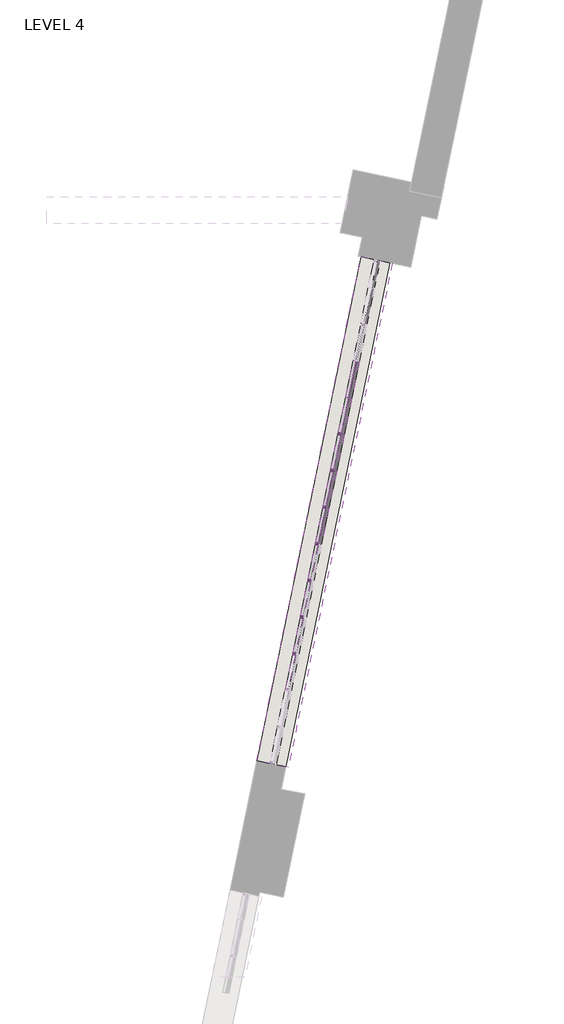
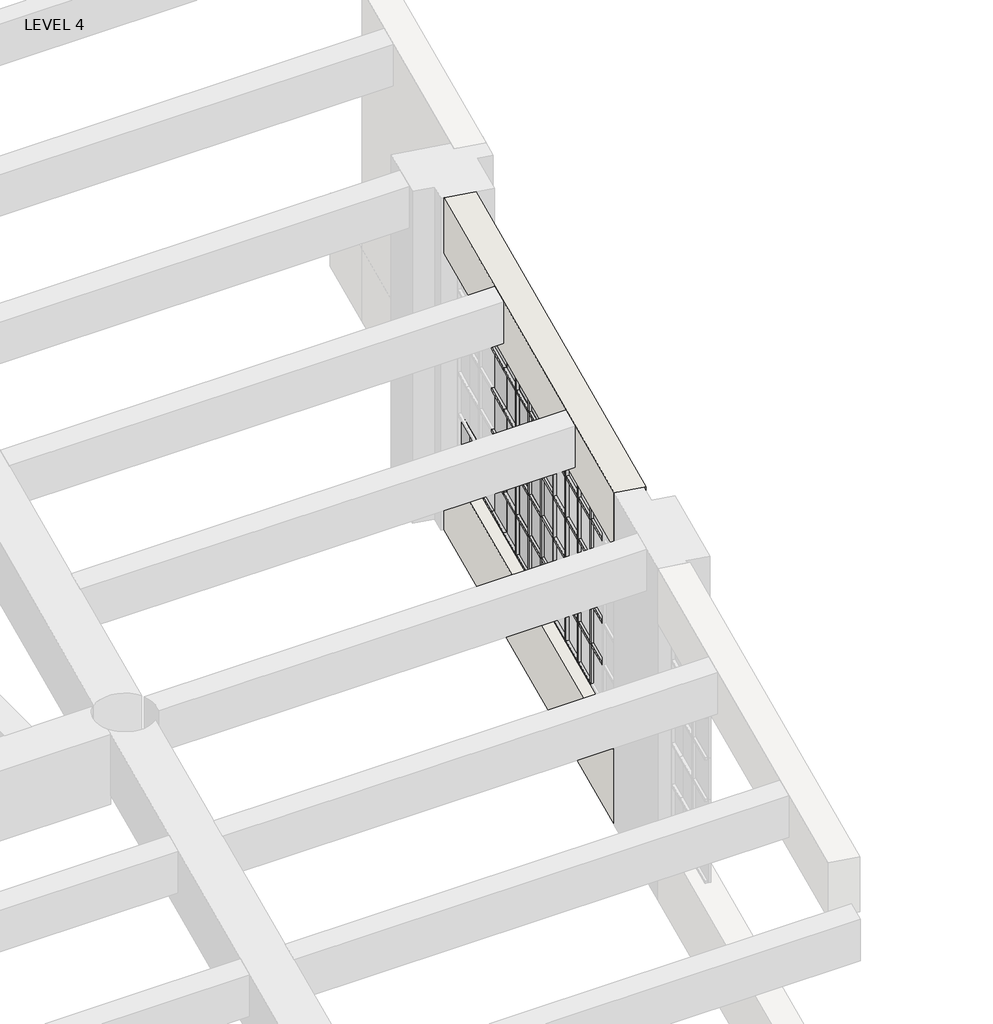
# One storey, part 22 of 26: 89 members, 27 plates, 2 walls.
"""IFC4 building model written with IfcOpenShell, lengths in millimetres."""

from ifc_helpers import new_model, si_unit, frame, origin, origin_with_axes, place, context, project, spatial, polyline, outline, extrude, transform, mapped, element, save
from components import member_d9fec558, member_3d4b608b, member_3c10d71f, member_653bb31e, member_643a3807, member_ec43e15b, member_6c57b699, member_0f6da5c5, system_panel_glazed_ab35d819, system_panel_glazed_f37bcc86, system_panel_glazed_418eb6cd

model = new_model("IFC4")

# Units and contexts
model_context = context("Model", 3, world=origin())
ifc_project = project(units=[si_unit("LENGTHUNIT", "METRE", prefix="MILLI")], contexts=[model_context])

# Site, building, storey
site = spatial("IfcSite", under=ifc_project)
building = spatial("IfcBuilding", under=site)
storey = spatial("IfcBuildingStorey", under=building, Name="LEVEL 4", Elevation=0.0)

# Members
placement = place(None, origin())
member_shape = member_d9fec558(model_context)
element("IfcMember", 1, ObjectType="Circular Mullion : 1 1/4\" Square", at=placement, inside=storey, context=model_context, shape_type="MappedRepresentation", body=[
    mapped(member_shape, transform((22207.396889, 109199.6458322, 2628.9), x_axis=(0.2022212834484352, 0.9793398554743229, 0.0), y_axis=(0.9793398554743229, -0.2022212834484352, 0.0), z_axis=(0.0, 0.0, -1.0))),
])
element("IfcMember", 2, ObjectType="Circular Mullion : 1 1/4\" Square", at=placement, inside=storey, context=model_context, shape_type="MappedRepresentation", body=[
    mapped(member_shape, transform((22135.4870006, 108851.3925796, 2628.9), x_axis=(0.2022212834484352, 0.9793398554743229, 0.0), y_axis=(0.9793398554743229, -0.2022212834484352, 0.0), z_axis=(0.0, 0.0, -1.0))),
])
element("IfcMember", 3, ObjectType="Circular Mullion : 1 1/4\" Square", at=placement, inside=storey, context=model_context, shape_type="MappedRepresentation", body=[
    mapped(member_shape, transform((22063.5771122, 108503.139327, 2628.9), x_axis=(0.2022212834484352, 0.9793398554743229, 0.0), y_axis=(0.9793398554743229, -0.2022212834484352, 0.0), z_axis=(0.0, 0.0, -1.0))),
])
element("IfcMember", 4, ObjectType="Circular Mullion : 1 1/4\" Square", at=placement, inside=storey, context=model_context, shape_type="MappedRepresentation", body=[
    mapped(member_shape, transform((21991.6672238, 108154.8860744, 2628.9), x_axis=(0.2022212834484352, 0.9793398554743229, 0.0), y_axis=(0.9793398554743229, -0.2022212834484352, 0.0), z_axis=(0.0, 0.0, -1.0))),
])
element("IfcMember", 5, ObjectType="Circular Mullion : 1 1/4\" Square", at=placement, inside=storey, context=model_context, shape_type="MappedRepresentation", body=[
    mapped(member_shape, transform((21919.7573354, 107806.6328218, 2628.9), x_axis=(0.2022212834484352, 0.9793398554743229, 0.0), y_axis=(0.9793398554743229, -0.2022212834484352, 0.0), z_axis=(0.0, 0.0, -1.0))),
])
element("IfcMember", 6, ObjectType="Circular Mullion : 1 1/4\" Square", at=placement, inside=storey, context=model_context, shape_type="MappedRepresentation", body=[
    mapped(member_shape, transform((21847.847447, 107458.3795692, 2628.9), x_axis=(0.2022212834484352, 0.9793398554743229, 0.0), y_axis=(0.9793398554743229, -0.2022212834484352, 0.0), z_axis=(0.0, 0.0, -1.0))),
])
element("IfcMember", 7, ObjectType="Circular Mullion : 1 1/4\" Square", at=placement, inside=storey, context=model_context, shape_type="MappedRepresentation", body=[
    mapped(member_shape, transform((21775.9375586, 107110.1263166, 2628.9), x_axis=(0.2022212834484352, 0.9793398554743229, 0.0), y_axis=(0.9793398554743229, -0.2022212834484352, 0.0), z_axis=(0.0, 0.0, -1.0))),
])
member_2_shape = member_3d4b608b(model_context)
element("IfcMember", 8, ObjectType="Circular Mullion : 1 1/4\" Square", at=placement, inside=storey, context=model_context, shape_type="MappedRepresentation", body=[
    mapped(member_2_shape, transform((22207.396889, 109199.6458322, 2171.7), x_axis=(0.2022212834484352, 0.9793398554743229, 0.0), y_axis=(0.9793398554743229, -0.2022212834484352, 0.0), z_axis=(0.0, 0.0, -1.0))),
])
element("IfcMember", 9, ObjectType="Circular Mullion : 1 1/4\" Square", at=placement, inside=storey, context=model_context, shape_type="MappedRepresentation", body=[
    mapped(member_2_shape, transform((22207.396889, 109199.6458322, 1714.5), x_axis=(0.2022212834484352, 0.9793398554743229, 0.0), y_axis=(0.9793398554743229, -0.2022212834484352, 0.0), z_axis=(0.0, 0.0, -1.0))),
])
element("IfcMember", 10, ObjectType="Circular Mullion : 1 1/4\" Square", at=placement, inside=storey, context=model_context, shape_type="MappedRepresentation", body=[
    mapped(member_2_shape, transform((22207.396889, 109199.6458322, 1257.3), x_axis=(0.2022212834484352, 0.9793398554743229, 0.0), y_axis=(0.9793398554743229, -0.2022212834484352, 0.0), z_axis=(0.0, 0.0, -1.0))),
])
element("IfcMember", 11, ObjectType="Circular Mullion : 1 1/4\" Square", at=placement, inside=storey, context=model_context, shape_type="MappedRepresentation", body=[
    mapped(member_2_shape, transform((22135.4870006, 108851.3925796, 2171.7), x_axis=(0.2022212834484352, 0.9793398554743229, 0.0), y_axis=(0.9793398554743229, -0.2022212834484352, 0.0), z_axis=(0.0, 0.0, -1.0))),
])
element("IfcMember", 12, ObjectType="Circular Mullion : 1 1/4\" Square", at=placement, inside=storey, context=model_context, shape_type="MappedRepresentation", body=[
    mapped(member_2_shape, transform((22135.4870006, 108851.3925796, 1714.5), x_axis=(0.2022212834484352, 0.9793398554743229, 0.0), y_axis=(0.9793398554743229, -0.2022212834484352, 0.0), z_axis=(0.0, 0.0, -1.0))),
])
element("IfcMember", 13, ObjectType="Circular Mullion : 1 1/4\" Square", at=placement, inside=storey, context=model_context, shape_type="MappedRepresentation", body=[
    mapped(member_2_shape, transform((22135.4870006, 108851.3925796, 1257.3), x_axis=(0.2022212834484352, 0.9793398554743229, 0.0), y_axis=(0.9793398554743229, -0.2022212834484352, 0.0), z_axis=(0.0, 0.0, -1.0))),
])
element("IfcMember", 14, ObjectType="Circular Mullion : 1 1/4\" Square", at=placement, inside=storey, context=model_context, shape_type="MappedRepresentation", body=[
    mapped(member_2_shape, transform((22063.5771122, 108503.139327, 2171.7), x_axis=(0.2022212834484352, 0.9793398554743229, 0.0), y_axis=(0.9793398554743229, -0.2022212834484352, 0.0), z_axis=(0.0, 0.0, -1.0))),
])
element("IfcMember", 15, ObjectType="Circular Mullion : 1 1/4\" Square", at=placement, inside=storey, context=model_context, shape_type="MappedRepresentation", body=[
    mapped(member_2_shape, transform((22063.5771122, 108503.139327, 1714.5), x_axis=(0.2022212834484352, 0.9793398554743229, 0.0), y_axis=(0.9793398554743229, -0.2022212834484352, 0.0), z_axis=(0.0, 0.0, -1.0))),
])
element("IfcMember", 16, ObjectType="Circular Mullion : 1 1/4\" Square", at=placement, inside=storey, context=model_context, shape_type="MappedRepresentation", body=[
    mapped(member_2_shape, transform((22063.5771122, 108503.139327, 1257.3), x_axis=(0.2022212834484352, 0.9793398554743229, 0.0), y_axis=(0.9793398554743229, -0.2022212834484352, 0.0), z_axis=(0.0, 0.0, -1.0))),
])
element("IfcMember", 17, ObjectType="Circular Mullion : 1 1/4\" Square", at=placement, inside=storey, context=model_context, shape_type="MappedRepresentation", body=[
    mapped(member_2_shape, transform((21991.6672238, 108154.8860744, 2171.7), x_axis=(0.2022212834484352, 0.9793398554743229, 0.0), y_axis=(0.9793398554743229, -0.2022212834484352, 0.0), z_axis=(0.0, 0.0, -1.0))),
])
element("IfcMember", 18, ObjectType="Circular Mullion : 1 1/4\" Square", at=placement, inside=storey, context=model_context, shape_type="MappedRepresentation", body=[
    mapped(member_2_shape, transform((21991.6672238, 108154.8860744, 1714.5), x_axis=(0.2022212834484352, 0.9793398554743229, 0.0), y_axis=(0.9793398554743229, -0.2022212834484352, 0.0), z_axis=(0.0, 0.0, -1.0))),
])
element("IfcMember", 19, ObjectType="Circular Mullion : 1 1/4\" Square", at=placement, inside=storey, context=model_context, shape_type="MappedRepresentation", body=[
    mapped(member_2_shape, transform((21991.6672238, 108154.8860744, 1257.3), x_axis=(0.2022212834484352, 0.9793398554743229, 0.0), y_axis=(0.9793398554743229, -0.2022212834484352, 0.0), z_axis=(0.0, 0.0, -1.0))),
])
element("IfcMember", 20, ObjectType="Circular Mullion : 1 1/4\" Square", at=placement, inside=storey, context=model_context, shape_type="MappedRepresentation", body=[
    mapped(member_2_shape, transform((21919.7573354, 107806.6328218, 2171.7), x_axis=(0.2022212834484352, 0.9793398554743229, 0.0), y_axis=(0.9793398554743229, -0.2022212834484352, 0.0), z_axis=(0.0, 0.0, -1.0))),
])
element("IfcMember", 21, ObjectType="Circular Mullion : 1 1/4\" Square", at=placement, inside=storey, context=model_context, shape_type="MappedRepresentation", body=[
    mapped(member_2_shape, transform((21919.7573354, 107806.6328218, 1714.5), x_axis=(0.2022212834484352, 0.9793398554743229, 0.0), y_axis=(0.9793398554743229, -0.2022212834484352, 0.0), z_axis=(0.0, 0.0, -1.0))),
])
element("IfcMember", 22, ObjectType="Circular Mullion : 1 1/4\" Square", at=placement, inside=storey, context=model_context, shape_type="MappedRepresentation", body=[
    mapped(member_2_shape, transform((21919.7573354, 107806.6328218, 1257.3), x_axis=(0.2022212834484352, 0.9793398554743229, 0.0), y_axis=(0.9793398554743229, -0.2022212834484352, 0.0), z_axis=(0.0, 0.0, -1.0))),
])
element("IfcMember", 23, ObjectType="Circular Mullion : 1 1/4\" Square", at=placement, inside=storey, context=model_context, shape_type="MappedRepresentation", body=[
    mapped(member_2_shape, transform((21847.847447, 107458.3795692, 2171.7), x_axis=(0.2022212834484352, 0.9793398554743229, 0.0), y_axis=(0.9793398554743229, -0.2022212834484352, 0.0), z_axis=(0.0, 0.0, -1.0))),
])
element("IfcMember", 24, ObjectType="Circular Mullion : 1 1/4\" Square", at=placement, inside=storey, context=model_context, shape_type="MappedRepresentation", body=[
    mapped(member_2_shape, transform((21847.847447, 107458.3795692, 1714.5), x_axis=(0.2022212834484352, 0.9793398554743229, 0.0), y_axis=(0.9793398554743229, -0.2022212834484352, 0.0), z_axis=(0.0, 0.0, -1.0))),
])
element("IfcMember", 25, ObjectType="Circular Mullion : 1 1/4\" Square", at=placement, inside=storey, context=model_context, shape_type="MappedRepresentation", body=[
    mapped(member_2_shape, transform((21847.847447, 107458.3795692, 1257.3), x_axis=(0.2022212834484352, 0.9793398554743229, 0.0), y_axis=(0.9793398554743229, -0.2022212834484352, 0.0), z_axis=(0.0, 0.0, -1.0))),
])
element("IfcMember", 26, ObjectType="Circular Mullion : 1 1/4\" Square", at=placement, inside=storey, context=model_context, shape_type="MappedRepresentation", body=[
    mapped(member_2_shape, transform((21775.9375586, 107110.1263166, 2171.7), x_axis=(0.2022212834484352, 0.9793398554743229, 0.0), y_axis=(0.9793398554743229, -0.2022212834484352, 0.0), z_axis=(0.0, 0.0, -1.0))),
])
element("IfcMember", 27, ObjectType="Circular Mullion : 1 1/4\" Square", at=placement, inside=storey, context=model_context, shape_type="MappedRepresentation", body=[
    mapped(member_2_shape, transform((21775.9375586, 107110.1263166, 1714.5), x_axis=(0.2022212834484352, 0.9793398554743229, 0.0), y_axis=(0.9793398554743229, -0.2022212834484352, 0.0), z_axis=(0.0, 0.0, -1.0))),
])
element("IfcMember", 28, ObjectType="Circular Mullion : 1 1/4\" Square", at=placement, inside=storey, context=model_context, shape_type="MappedRepresentation", body=[
    mapped(member_2_shape, transform((21775.9375586, 107110.1263166, 1257.3), x_axis=(0.2022212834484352, 0.9793398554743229, 0.0), y_axis=(0.9793398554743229, -0.2022212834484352, 0.0), z_axis=(0.0, 0.0, -1.0))),
])
element("IfcMember", 29, ObjectType="Circular Mullion : 1 1/4\" Square", at=placement, inside=storey, context=model_context, shape_type="MappedRepresentation", body=[
    mapped(member_2_shape, transform((22207.396889, 109199.6458322, 800.1), x_axis=(0.2022212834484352, 0.9793398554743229, 0.0), y_axis=(0.9793398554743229, -0.2022212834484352, 0.0), z_axis=(0.0, 0.0, -1.0))),
])
element("IfcMember", 30, ObjectType="Circular Mullion : 1 1/4\" Square", at=placement, inside=storey, context=model_context, shape_type="MappedRepresentation", body=[
    mapped(member_2_shape, transform((22135.4870006, 108851.3925796, 800.1), x_axis=(0.2022212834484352, 0.9793398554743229, 0.0), y_axis=(0.9793398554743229, -0.2022212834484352, 0.0), z_axis=(0.0, 0.0, -1.0))),
])
element("IfcMember", 31, ObjectType="Circular Mullion : 1 1/4\" Square", at=placement, inside=storey, context=model_context, shape_type="MappedRepresentation", body=[
    mapped(member_2_shape, transform((22063.5771122, 108503.139327, 800.1), x_axis=(0.2022212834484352, 0.9793398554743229, 0.0), y_axis=(0.9793398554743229, -0.2022212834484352, 0.0), z_axis=(0.0, 0.0, -1.0))),
])
element("IfcMember", 32, ObjectType="Circular Mullion : 1 1/4\" Square", at=placement, inside=storey, context=model_context, shape_type="MappedRepresentation", body=[
    mapped(member_2_shape, transform((21991.6672238, 108154.8860744, 800.1), x_axis=(0.2022212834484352, 0.9793398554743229, 0.0), y_axis=(0.9793398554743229, -0.2022212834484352, 0.0), z_axis=(0.0, 0.0, -1.0))),
])
element("IfcMember", 33, ObjectType="Circular Mullion : 1 1/4\" Square", at=placement, inside=storey, context=model_context, shape_type="MappedRepresentation", body=[
    mapped(member_2_shape, transform((21919.7573354, 107806.6328218, 800.1), x_axis=(0.2022212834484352, 0.9793398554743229, 0.0), y_axis=(0.9793398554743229, -0.2022212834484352, 0.0), z_axis=(0.0, 0.0, -1.0))),
])
element("IfcMember", 34, ObjectType="Circular Mullion : 1 1/4\" Square", at=placement, inside=storey, context=model_context, shape_type="MappedRepresentation", body=[
    mapped(member_2_shape, transform((21847.847447, 107458.3795692, 800.1), x_axis=(0.2022212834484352, 0.9793398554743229, 0.0), y_axis=(0.9793398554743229, -0.2022212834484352, 0.0), z_axis=(0.0, 0.0, -1.0))),
])
element("IfcMember", 35, ObjectType="Circular Mullion : 1 1/4\" Square", at=placement, inside=storey, context=model_context, shape_type="MappedRepresentation", body=[
    mapped(member_2_shape, transform((21775.9375586, 107110.1263166, 800.1), x_axis=(0.2022212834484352, 0.9793398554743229, 0.0), y_axis=(0.9793398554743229, -0.2022212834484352, 0.0), z_axis=(0.0, 0.0, -1.0))),
])
member_3_shape = member_3c10d71f(model_context)
element("IfcMember", 36, ObjectType="Circular Mullion : 1 1/4\" Square", at=placement, inside=storey, context=model_context, shape_type="MappedRepresentation", body=[
    mapped(member_3_shape, transform((21773.3693483, 107097.6887004, 3060.7), x_axis=(0.0, 0.0, 1.0), y_axis=(0.9793398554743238, -0.20222128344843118, 0.0), z_axis=(0.20222128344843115, 0.9793398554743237, 0.0))),
])
element("IfcMember", 37, ObjectType="Circular Mullion : 1 1/4\" Square", at=placement, inside=storey, context=model_context, shape_type="MappedRepresentation", body=[
    mapped(member_3_shape, transform((21845.2792367, 107445.941953, 3060.7), x_axis=(0.0, 0.0, 1.0), y_axis=(0.9793398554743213, -0.20222128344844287, 0.0), z_axis=(0.20222128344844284, 0.9793398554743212, 0.0))),
])
element("IfcMember", 38, ObjectType="Circular Mullion : 1 1/4\" Square", at=placement, inside=storey, context=model_context, shape_type="MappedRepresentation", body=[
    mapped(member_3_shape, transform((21917.1891251, 107794.1952056, 3060.7), x_axis=(0.0, 0.0, 1.0), y_axis=(0.9793398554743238, -0.20222128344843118, 0.0), z_axis=(0.20222128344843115, 0.9793398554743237, 0.0))),
])
element("IfcMember", 39, ObjectType="Circular Mullion : 1 1/4\" Square", at=placement, inside=storey, context=model_context, shape_type="MappedRepresentation", body=[
    mapped(member_3_shape, transform((21989.0990135, 108142.4484582, 3060.7), x_axis=(0.0, 0.0, 1.0), y_axis=(0.9793398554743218, -0.20222128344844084, 0.0), z_axis=(0.20222128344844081, 0.9793398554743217, 0.0))),
])
element("IfcMember", 40, ObjectType="Circular Mullion : 1 1/4\" Square", at=placement, inside=storey, context=model_context, shape_type="MappedRepresentation", body=[
    mapped(member_3_shape, transform((22061.0089019, 108490.7017108, 3060.7), x_axis=(0.0, 0.0, 1.0), y_axis=(0.9793398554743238, -0.20222128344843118, 0.0), z_axis=(0.20222128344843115, 0.9793398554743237, 0.0))),
])
element("IfcMember", 41, ObjectType="Circular Mullion : 1 1/4\" Square", at=placement, inside=storey, context=model_context, shape_type="MappedRepresentation", body=[
    mapped(member_3_shape, transform((22132.9187903, 108838.9549634, 3060.7), x_axis=(0.0, 0.0, 1.0), y_axis=(0.9793398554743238, -0.20222128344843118, 0.0), z_axis=(0.20222128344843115, 0.9793398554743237, 0.0))),
])
element("IfcMember", 42, ObjectType="Circular Mullion : 1 1/4\" Square", at=placement, inside=storey, context=model_context, shape_type="MappedRepresentation", body=[
    mapped(member_3_shape, transform((22204.8286787, 109187.208216, 3060.7), x_axis=(0.0, 0.0, 1.0), y_axis=(0.9793398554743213, -0.20222128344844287, 0.0), z_axis=(0.20222128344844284, 0.9793398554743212, 0.0))),
])
element("IfcMember", 43, ObjectType="Circular Mullion : 1 1/4\" Square", at=placement, inside=storey, context=model_context, shape_type="MappedRepresentation", body=[
    mapped(member_3_shape, transform((21778.5057689, 107122.5639327, 800.1), x_axis=(0.0, 0.0, -1.0), y_axis=(0.9793398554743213, -0.20222128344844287, 0.0), z_axis=(-0.20222128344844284, -0.9793398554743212, 0.0))),
])
element("IfcMember", 44, ObjectType="Circular Mullion : 1 1/4\" Square", at=placement, inside=storey, context=model_context, shape_type="MappedRepresentation", body=[
    mapped(member_3_shape, transform((21850.4156573, 107470.8171853, 800.1), x_axis=(0.0, 0.0, -1.0), y_axis=(0.9793398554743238, -0.20222128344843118, 0.0), z_axis=(-0.20222128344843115, -0.9793398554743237, 0.0))),
])
element("IfcMember", 45, ObjectType="Circular Mullion : 1 1/4\" Square", at=placement, inside=storey, context=model_context, shape_type="MappedRepresentation", body=[
    mapped(member_3_shape, transform((21922.3255457, 107819.0704379, 800.1), x_axis=(0.0, 0.0, -1.0), y_axis=(0.9793398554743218, -0.20222128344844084, 0.0), z_axis=(-0.20222128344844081, -0.9793398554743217, 0.0))),
])
element("IfcMember", 46, ObjectType="Circular Mullion : 1 1/4\" Square", at=placement, inside=storey, context=model_context, shape_type="MappedRepresentation", body=[
    mapped(member_3_shape, transform((21994.2354341, 108167.3236905, 800.1), x_axis=(0.0, 0.0, -1.0), y_axis=(0.9793398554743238, -0.20222128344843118, 0.0), z_axis=(-0.20222128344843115, -0.9793398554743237, 0.0))),
])
element("IfcMember", 47, ObjectType="Circular Mullion : 1 1/4\" Square", at=placement, inside=storey, context=model_context, shape_type="MappedRepresentation", body=[
    mapped(member_3_shape, transform((22066.1453225, 108515.5769432, 800.1), x_axis=(0.0, 0.0, -1.0), y_axis=(0.9793398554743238, -0.20222128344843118, 0.0), z_axis=(-0.20222128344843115, -0.9793398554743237, 0.0))),
])
element("IfcMember", 48, ObjectType="Circular Mullion : 1 1/4\" Square", at=placement, inside=storey, context=model_context, shape_type="MappedRepresentation", body=[
    mapped(member_3_shape, transform((22138.0552109, 108863.8301958, 800.1), x_axis=(0.0, 0.0, -1.0), y_axis=(0.9793398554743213, -0.20222128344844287, 0.0), z_axis=(-0.20222128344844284, -0.9793398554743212, 0.0))),
])
member_4_shape = member_653bb31e(model_context)
element("IfcMember", 49, ObjectType="Circular Mullion : 1 1/4\" Square", at=placement, inside=storey, context=model_context, shape_type="MappedRepresentation", body=[
    mapped(member_4_shape, transform((21773.3693483, 107097.6887004, 2628.9), x_axis=(0.0, 0.0, 1.0), y_axis=(0.9793398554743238, -0.20222128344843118, 0.0), z_axis=(0.20222128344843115, 0.9793398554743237, 0.0))),
])
element("IfcMember", 50, ObjectType="Circular Mullion : 1 1/4\" Square", at=placement, inside=storey, context=model_context, shape_type="MappedRepresentation", body=[
    mapped(member_4_shape, transform((21845.2792367, 107445.941953, 2628.9), x_axis=(0.0, 0.0, 1.0), y_axis=(0.9793398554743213, -0.20222128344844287, 0.0), z_axis=(0.20222128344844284, 0.9793398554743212, 0.0))),
])
element("IfcMember", 51, ObjectType="Circular Mullion : 1 1/4\" Square", at=placement, inside=storey, context=model_context, shape_type="MappedRepresentation", body=[
    mapped(member_4_shape, transform((21917.1891251, 107794.1952056, 2628.9), x_axis=(0.0, 0.0, 1.0), y_axis=(0.9793398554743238, -0.20222128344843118, 0.0), z_axis=(0.20222128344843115, 0.9793398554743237, 0.0))),
])
element("IfcMember", 52, ObjectType="Circular Mullion : 1 1/4\" Square", at=placement, inside=storey, context=model_context, shape_type="MappedRepresentation", body=[
    mapped(member_4_shape, transform((21989.0990135, 108142.4484582, 2628.9), x_axis=(0.0, 0.0, 1.0), y_axis=(0.9793398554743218, -0.20222128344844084, 0.0), z_axis=(0.20222128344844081, 0.9793398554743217, 0.0))),
])
element("IfcMember", 53, ObjectType="Circular Mullion : 1 1/4\" Square", at=placement, inside=storey, context=model_context, shape_type="MappedRepresentation", body=[
    mapped(member_4_shape, transform((22061.0089019, 108490.7017108, 2628.9), x_axis=(0.0, 0.0, 1.0), y_axis=(0.9793398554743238, -0.20222128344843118, 0.0), z_axis=(0.20222128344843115, 0.9793398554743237, 0.0))),
])
element("IfcMember", 54, ObjectType="Circular Mullion : 1 1/4\" Square", at=placement, inside=storey, context=model_context, shape_type="MappedRepresentation", body=[
    mapped(member_4_shape, transform((22132.9187903, 108838.9549634, 2628.9), x_axis=(0.0, 0.0, 1.0), y_axis=(0.9793398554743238, -0.20222128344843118, 0.0), z_axis=(0.20222128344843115, 0.9793398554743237, 0.0))),
])
element("IfcMember", 55, ObjectType="Circular Mullion : 1 1/4\" Square", at=placement, inside=storey, context=model_context, shape_type="MappedRepresentation", body=[
    mapped(member_4_shape, transform((22204.8286787, 109187.208216, 2628.9), x_axis=(0.0, 0.0, 1.0), y_axis=(0.9793398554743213, -0.20222128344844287, 0.0), z_axis=(0.20222128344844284, 0.9793398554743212, 0.0))),
])
element("IfcMember", 56, ObjectType="Circular Mullion : 1 1/4\" Square", at=placement, inside=storey, context=model_context, shape_type="MappedRepresentation", body=[
    mapped(member_4_shape, transform((21773.3693483, 107097.6887004, 2171.7), x_axis=(0.0, 0.0, 1.0), y_axis=(0.9793398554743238, -0.20222128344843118, 0.0), z_axis=(0.20222128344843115, 0.9793398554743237, 0.0))),
])
element("IfcMember", 57, ObjectType="Circular Mullion : 1 1/4\" Square", at=placement, inside=storey, context=model_context, shape_type="MappedRepresentation", body=[
    mapped(member_4_shape, transform((21845.2792367, 107445.941953, 2171.7), x_axis=(0.0, 0.0, 1.0), y_axis=(0.9793398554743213, -0.20222128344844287, 0.0), z_axis=(0.20222128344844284, 0.9793398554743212, 0.0))),
])
element("IfcMember", 58, ObjectType="Circular Mullion : 1 1/4\" Square", at=placement, inside=storey, context=model_context, shape_type="MappedRepresentation", body=[
    mapped(member_4_shape, transform((21917.1891251, 107794.1952056, 2171.7), x_axis=(0.0, 0.0, 1.0), y_axis=(0.9793398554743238, -0.20222128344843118, 0.0), z_axis=(0.20222128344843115, 0.9793398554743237, 0.0))),
])
element("IfcMember", 59, ObjectType="Circular Mullion : 1 1/4\" Square", at=placement, inside=storey, context=model_context, shape_type="MappedRepresentation", body=[
    mapped(member_4_shape, transform((21989.0990135, 108142.4484582, 2171.7), x_axis=(0.0, 0.0, 1.0), y_axis=(0.9793398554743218, -0.20222128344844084, 0.0), z_axis=(0.20222128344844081, 0.9793398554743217, 0.0))),
])
element("IfcMember", 60, ObjectType="Circular Mullion : 1 1/4\" Square", at=placement, inside=storey, context=model_context, shape_type="MappedRepresentation", body=[
    mapped(member_4_shape, transform((22061.0089019, 108490.7017108, 2171.7), x_axis=(0.0, 0.0, 1.0), y_axis=(0.9793398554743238, -0.20222128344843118, 0.0), z_axis=(0.20222128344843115, 0.9793398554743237, 0.0))),
])
element("IfcMember", 61, ObjectType="Circular Mullion : 1 1/4\" Square", at=placement, inside=storey, context=model_context, shape_type="MappedRepresentation", body=[
    mapped(member_4_shape, transform((22132.9187903, 108838.9549634, 2171.7), x_axis=(0.0, 0.0, 1.0), y_axis=(0.9793398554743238, -0.20222128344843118, 0.0), z_axis=(0.20222128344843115, 0.9793398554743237, 0.0))),
])
element("IfcMember", 62, ObjectType="Circular Mullion : 1 1/4\" Square", at=placement, inside=storey, context=model_context, shape_type="MappedRepresentation", body=[
    mapped(member_4_shape, transform((22204.8286787, 109187.208216, 2171.7), x_axis=(0.0, 0.0, 1.0), y_axis=(0.9793398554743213, -0.20222128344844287, 0.0), z_axis=(0.20222128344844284, 0.9793398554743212, 0.0))),
])
element("IfcMember", 63, ObjectType="Circular Mullion : 1 1/4\" Square", at=placement, inside=storey, context=model_context, shape_type="MappedRepresentation", body=[
    mapped(member_4_shape, transform((21773.3693483, 107097.6887004, 1714.5), x_axis=(0.0, 0.0, 1.0), y_axis=(0.9793398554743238, -0.20222128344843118, 0.0), z_axis=(0.20222128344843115, 0.9793398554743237, 0.0))),
])
element("IfcMember", 64, ObjectType="Circular Mullion : 1 1/4\" Square", at=placement, inside=storey, context=model_context, shape_type="MappedRepresentation", body=[
    mapped(member_4_shape, transform((21845.2792367, 107445.941953, 1714.5), x_axis=(0.0, 0.0, 1.0), y_axis=(0.9793398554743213, -0.20222128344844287, 0.0), z_axis=(0.20222128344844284, 0.9793398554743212, 0.0))),
])
element("IfcMember", 65, ObjectType="Circular Mullion : 1 1/4\" Square", at=placement, inside=storey, context=model_context, shape_type="MappedRepresentation", body=[
    mapped(member_4_shape, transform((21917.1891251, 107794.1952056, 1714.5), x_axis=(0.0, 0.0, 1.0), y_axis=(0.9793398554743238, -0.20222128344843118, 0.0), z_axis=(0.20222128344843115, 0.9793398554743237, 0.0))),
])
element("IfcMember", 66, ObjectType="Circular Mullion : 1 1/4\" Square", at=placement, inside=storey, context=model_context, shape_type="MappedRepresentation", body=[
    mapped(member_4_shape, transform((21989.0990135, 108142.4484582, 1714.5), x_axis=(0.0, 0.0, 1.0), y_axis=(0.9793398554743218, -0.20222128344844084, 0.0), z_axis=(0.20222128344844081, 0.9793398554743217, 0.0))),
])
element("IfcMember", 67, ObjectType="Circular Mullion : 1 1/4\" Square", at=placement, inside=storey, context=model_context, shape_type="MappedRepresentation", body=[
    mapped(member_4_shape, transform((22061.0089019, 108490.7017108, 1714.5), x_axis=(0.0, 0.0, 1.0), y_axis=(0.9793398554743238, -0.20222128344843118, 0.0), z_axis=(0.20222128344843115, 0.9793398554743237, 0.0))),
])
element("IfcMember", 68, ObjectType="Circular Mullion : 1 1/4\" Square", at=placement, inside=storey, context=model_context, shape_type="MappedRepresentation", body=[
    mapped(member_4_shape, transform((22132.9187903, 108838.9549634, 1714.5), x_axis=(0.0, 0.0, 1.0), y_axis=(0.9793398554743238, -0.20222128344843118, 0.0), z_axis=(0.20222128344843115, 0.9793398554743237, 0.0))),
])
element("IfcMember", 69, ObjectType="Circular Mullion : 1 1/4\" Square", at=placement, inside=storey, context=model_context, shape_type="MappedRepresentation", body=[
    mapped(member_4_shape, transform((22204.8286787, 109187.208216, 1714.5), x_axis=(0.0, 0.0, 1.0), y_axis=(0.9793398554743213, -0.20222128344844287, 0.0), z_axis=(0.20222128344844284, 0.9793398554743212, 0.0))),
])
element("IfcMember", 70, ObjectType="Circular Mullion : 1 1/4\" Square", at=placement, inside=storey, context=model_context, shape_type="MappedRepresentation", body=[
    mapped(member_4_shape, transform((21773.3693483, 107097.6887004, 1257.3), x_axis=(0.0, 0.0, 1.0), y_axis=(0.9793398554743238, -0.20222128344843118, 0.0), z_axis=(0.20222128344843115, 0.9793398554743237, 0.0))),
])
element("IfcMember", 71, ObjectType="Circular Mullion : 1 1/4\" Square", at=placement, inside=storey, context=model_context, shape_type="MappedRepresentation", body=[
    mapped(member_4_shape, transform((21845.2792367, 107445.941953, 1257.3), x_axis=(0.0, 0.0, 1.0), y_axis=(0.9793398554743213, -0.20222128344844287, 0.0), z_axis=(0.20222128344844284, 0.9793398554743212, 0.0))),
])
element("IfcMember", 72, ObjectType="Circular Mullion : 1 1/4\" Square", at=placement, inside=storey, context=model_context, shape_type="MappedRepresentation", body=[
    mapped(member_4_shape, transform((21917.1891251, 107794.1952056, 1257.3), x_axis=(0.0, 0.0, 1.0), y_axis=(0.9793398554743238, -0.20222128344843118, 0.0), z_axis=(0.20222128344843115, 0.9793398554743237, 0.0))),
])
element("IfcMember", 73, ObjectType="Circular Mullion : 1 1/4\" Square", at=placement, inside=storey, context=model_context, shape_type="MappedRepresentation", body=[
    mapped(member_4_shape, transform((21989.0990135, 108142.4484582, 1257.3), x_axis=(0.0, 0.0, 1.0), y_axis=(0.9793398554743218, -0.20222128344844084, 0.0), z_axis=(0.20222128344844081, 0.9793398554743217, 0.0))),
])
element("IfcMember", 74, ObjectType="Circular Mullion : 1 1/4\" Square", at=placement, inside=storey, context=model_context, shape_type="MappedRepresentation", body=[
    mapped(member_4_shape, transform((22061.0089019, 108490.7017108, 1257.3), x_axis=(0.0, 0.0, 1.0), y_axis=(0.9793398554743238, -0.20222128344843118, 0.0), z_axis=(0.20222128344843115, 0.9793398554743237, 0.0))),
])
element("IfcMember", 75, ObjectType="Circular Mullion : 1 1/4\" Square", at=placement, inside=storey, context=model_context, shape_type="MappedRepresentation", body=[
    mapped(member_4_shape, transform((22132.9187903, 108838.9549634, 1257.3), x_axis=(0.0, 0.0, 1.0), y_axis=(0.9793398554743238, -0.20222128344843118, 0.0), z_axis=(0.20222128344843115, 0.9793398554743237, 0.0))),
])
element("IfcMember", 76, ObjectType="Circular Mullion : 1 1/4\" Square", at=placement, inside=storey, context=model_context, shape_type="MappedRepresentation", body=[
    mapped(member_4_shape, transform((22204.8286787, 109187.208216, 1257.3), x_axis=(0.0, 0.0, 1.0), y_axis=(0.9793398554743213, -0.20222128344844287, 0.0), z_axis=(0.20222128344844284, 0.9793398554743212, 0.0))),
])
member_5_shape = member_643a3807(model_context)
element("IfcMember", 77, ObjectType="Circular Mullion : 1 1/4\" Square", at=placement, inside=storey, context=model_context, shape_type="MappedRepresentation", body=[
    mapped(member_5_shape, transform((22351.2166657, 109896.1523374, 2628.9), x_axis=(0.0, 0.0, 1.0), y_axis=(0.9793398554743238, -0.20222128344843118, 0.0), z_axis=(0.20222128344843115, 0.9793398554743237, 0.0))),
])
element("IfcMember", 78, ObjectType="Circular Mullion : 1 1/4\" Square", at=placement, inside=storey, context=model_context, shape_type="MappedRepresentation", body=[
    mapped(member_5_shape, transform((22351.2166657, 109896.1523374, 2171.7), x_axis=(0.0, 0.0, 1.0), y_axis=(0.9793398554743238, -0.20222128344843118, 0.0), z_axis=(0.20222128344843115, 0.9793398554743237, 0.0))),
])
element("IfcMember", 79, ObjectType="Circular Mullion : 1 1/4\" Square", at=placement, inside=storey, context=model_context, shape_type="MappedRepresentation", body=[
    mapped(member_5_shape, transform((22351.2166657, 109896.1523374, 1714.5), x_axis=(0.0, 0.0, 1.0), y_axis=(0.9793398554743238, -0.20222128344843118, 0.0), z_axis=(0.20222128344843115, 0.9793398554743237, 0.0))),
])
element("IfcMember", 80, ObjectType="Circular Mullion : 1 1/4\" Square", at=placement, inside=storey, context=model_context, shape_type="MappedRepresentation", body=[
    mapped(member_5_shape, transform((22351.2166657, 109896.1523374, 1257.3), x_axis=(0.0, 0.0, 1.0), y_axis=(0.9793398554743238, -0.20222128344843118, 0.0), z_axis=(0.20222128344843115, 0.9793398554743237, 0.0))),
])
member_6_shape = member_ec43e15b(model_context)
element("IfcMember", 81, ObjectType="Circular Mullion : 1 1/4\" Square", at=placement, inside=storey, context=model_context, shape_type="MappedRepresentation", body=[
    mapped(member_6_shape, transform((22351.2166657, 109896.1523374, 3060.7), x_axis=(0.0, 0.0, 1.0), y_axis=(0.9793398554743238, -0.20222128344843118, 0.0), z_axis=(0.20222128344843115, 0.9793398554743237, 0.0))),
])
member_7_shape = member_6c57b699(model_context)
element("IfcMember", 82, ObjectType="Circular Mullion : 1 1/4\" Square", at=placement, inside=storey, context=model_context, shape_type="MappedRepresentation", body=[
    mapped(member_7_shape, transform((22279.3067774, 109547.8990848, 2628.9), x_axis=(0.0, 0.0, 1.0), y_axis=(0.9793398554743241, -0.20222128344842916, 0.0), z_axis=(0.20222128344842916, 0.9793398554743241, 0.0))),
])
element("IfcMember", 83, ObjectType="Circular Mullion : 1 1/4\" Square", at=placement, inside=storey, context=model_context, shape_type="MappedRepresentation", body=[
    mapped(member_7_shape, transform((22279.3067774, 109547.8990848, 2171.7), x_axis=(0.0, 0.0, 1.0), y_axis=(0.9793398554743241, -0.20222128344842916, 0.0), z_axis=(0.20222128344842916, 0.9793398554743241, 0.0))),
])
element("IfcMember", 84, ObjectType="Circular Mullion : 1 1/4\" Square", at=placement, inside=storey, context=model_context, shape_type="MappedRepresentation", body=[
    mapped(member_7_shape, transform((22279.3067774, 109547.8990848, 1714.5), x_axis=(0.0, 0.0, 1.0), y_axis=(0.9793398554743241, -0.20222128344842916, 0.0), z_axis=(0.20222128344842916, 0.9793398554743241, 0.0))),
])
element("IfcMember", 85, ObjectType="Circular Mullion : 1 1/4\" Square", at=placement, inside=storey, context=model_context, shape_type="MappedRepresentation", body=[
    mapped(member_7_shape, transform((22279.3067774, 109547.8990848, 1257.3), x_axis=(0.0, 0.0, 1.0), y_axis=(0.9793398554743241, -0.20222128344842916, 0.0), z_axis=(0.20222128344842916, 0.9793398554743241, 0.0))),
])
member_8_shape = member_0f6da5c5(model_context)
element("IfcMember", 86, ObjectType="Circular Mullion : 1 1/4\" Square", at=placement, inside=storey, context=model_context, shape_type="MappedRepresentation", body=[
    mapped(member_8_shape, transform((22279.3067774, 109547.8990848, 3060.7), x_axis=(0.0, 0.0, 1.0), y_axis=(0.9793398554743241, -0.20222128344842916, 0.0), z_axis=(0.20222128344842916, 0.9793398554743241, 0.0))),
])
element("IfcMember", 87, ObjectType="Circular Mullion : 1 1/4\" Square", at=placement, inside=storey, context=model_context, shape_type="MappedRepresentation", body=[
    mapped(member_6_shape, transform((22279.3067774, 109547.8990848, 800.1), x_axis=(0.0, 0.0, -1.0), y_axis=(0.9793398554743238, -0.20222128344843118, 0.0), z_axis=(-0.20222128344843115, -0.9793398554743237, 0.0))),
])
element("IfcMember", 88, ObjectType="Circular Mullion : 1 1/4\" Square", at=placement, inside=storey, context=model_context, shape_type="MappedRepresentation", body=[
    mapped(member_8_shape, transform((22351.2166657, 109896.1523374, 800.1), x_axis=(0.0, 0.0, -1.0), y_axis=(0.9793398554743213, -0.20222128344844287, 0.0), z_axis=(-0.20222128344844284, -0.9793398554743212, 0.0))),
])
element("IfcMember", 89, ObjectType="Circular Mullion : 1 1/4\" Square", at=placement, inside=storey, context=model_context, shape_type="MappedRepresentation", body=[
    mapped(member_8_shape, transform((22209.9650993, 109212.0834484, 800.1), x_axis=(0.0, 0.0, -1.0), y_axis=(0.9793398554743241, -0.20222128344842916, 0.0), z_axis=(-0.20222128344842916, -0.9793398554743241, 0.0))),
])

# Plates
system_panel_glazed_shape = system_panel_glazed_ab35d819(model_context)
element("IfcPlate", 90, ObjectType="System Panel : Glazed", at=placement, inside=storey, context=model_context, shape_type="MappedRepresentation", body=[
    mapped(system_panel_glazed_shape, transform((22459.0814983, 110418.5322163, 800.1), x_axis=(0.2022212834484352, 0.9793398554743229, 0.0), y_axis=(-0.9793398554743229, 0.2022212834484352, 0.0), z_axis=(0.0, 0.0, 1.0))),
])
element("IfcPlate", 91, ObjectType="System Panel : Glazed", at=placement, inside=storey, context=model_context, shape_type="MappedRepresentation", body=[
    mapped(system_panel_glazed_shape, transform((22315.2617216, 109722.0257111, 800.1), x_axis=(0.2022212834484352, 0.9793398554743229, 0.0), y_axis=(-0.9793398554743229, 0.2022212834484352, 0.0), z_axis=(0.0, 0.0, 1.0))),
])
element("IfcPlate", 92, ObjectType="System Panel : Glazed", at=placement, inside=storey, context=model_context, shape_type="MappedRepresentation", body=[
    mapped(system_panel_glazed_shape, transform((22243.3518332, 109373.7724585, 800.1), x_axis=(0.2022212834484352, 0.9793398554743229, 0.0), y_axis=(-0.9793398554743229, 0.2022212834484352, 0.0), z_axis=(0.0, 0.0, 1.0))),
])
element("IfcPlate", 93, ObjectType="System Panel : Glazed", at=placement, inside=storey, context=model_context, shape_type="MappedRepresentation", body=[
    mapped(system_panel_glazed_shape, transform((22171.4419448, 109025.5192059, 800.1), x_axis=(0.2022212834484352, 0.9793398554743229, 0.0), y_axis=(-0.9793398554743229, 0.2022212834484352, 0.0), z_axis=(0.0, 0.0, 1.0))),
])
element("IfcPlate", 94, ObjectType="System Panel : Glazed", at=placement, inside=storey, context=model_context, shape_type="MappedRepresentation", body=[
    mapped(system_panel_glazed_shape, transform((22099.5320564, 108677.2659533, 800.1), x_axis=(0.2022212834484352, 0.9793398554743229, 0.0), y_axis=(-0.9793398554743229, 0.2022212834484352, 0.0), z_axis=(0.0, 0.0, 1.0))),
])
element("IfcPlate", 95, ObjectType="System Panel : Glazed", at=placement, inside=storey, context=model_context, shape_type="MappedRepresentation", body=[
    mapped(system_panel_glazed_shape, transform((22027.622168, 108329.0127007, 800.1), x_axis=(0.2022212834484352, 0.9793398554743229, 0.0), y_axis=(-0.9793398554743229, 0.2022212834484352, 0.0), z_axis=(0.0, 0.0, 1.0))),
])
element("IfcPlate", 96, ObjectType="System Panel : Glazed", at=placement, inside=storey, context=model_context, shape_type="MappedRepresentation", body=[
    mapped(system_panel_glazed_shape, transform((22315.2617216, 109722.0257111, 1257.3), x_axis=(0.2022212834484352, 0.9793398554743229, 0.0), y_axis=(-0.9793398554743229, 0.2022212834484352, 0.0), z_axis=(0.0, 0.0, 1.0))),
])
element("IfcPlate", 97, ObjectType="System Panel : Glazed", at=placement, inside=storey, context=model_context, shape_type="MappedRepresentation", body=[
    mapped(system_panel_glazed_shape, transform((22243.3518332, 109373.7724585, 1257.3), x_axis=(0.2022212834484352, 0.9793398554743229, 0.0), y_axis=(-0.9793398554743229, 0.2022212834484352, 0.0), z_axis=(0.0, 0.0, 1.0))),
])
element("IfcPlate", 98, ObjectType="System Panel : Glazed", at=placement, inside=storey, context=model_context, shape_type="MappedRepresentation", body=[
    mapped(system_panel_glazed_shape, transform((22171.4419448, 109025.5192059, 1257.3), x_axis=(0.2022212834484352, 0.9793398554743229, 0.0), y_axis=(-0.9793398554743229, 0.2022212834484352, 0.0), z_axis=(0.0, 0.0, 1.0))),
])
element("IfcPlate", 99, ObjectType="System Panel : Glazed", at=placement, inside=storey, context=model_context, shape_type="MappedRepresentation", body=[
    mapped(system_panel_glazed_shape, transform((22099.5320564, 108677.2659533, 1257.3), x_axis=(0.2022212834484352, 0.9793398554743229, 0.0), y_axis=(-0.9793398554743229, 0.2022212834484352, 0.0), z_axis=(0.0, 0.0, 1.0))),
])
element("IfcPlate", 100, ObjectType="System Panel : Glazed", at=placement, inside=storey, context=model_context, shape_type="MappedRepresentation", body=[
    mapped(system_panel_glazed_shape, transform((22027.622168, 108329.0127007, 1257.3), x_axis=(0.2022212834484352, 0.9793398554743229, 0.0), y_axis=(-0.9793398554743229, 0.2022212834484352, 0.0), z_axis=(0.0, 0.0, 1.0))),
])
element("IfcPlate", 101, ObjectType="System Panel : Glazed", at=placement, inside=storey, context=model_context, shape_type="MappedRepresentation", body=[
    mapped(system_panel_glazed_shape, transform((22315.2617216, 109722.0257111, 1714.5), x_axis=(0.2022212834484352, 0.9793398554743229, 0.0), y_axis=(-0.9793398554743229, 0.2022212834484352, 0.0), z_axis=(0.0, 0.0, 1.0))),
])
element("IfcPlate", 102, ObjectType="System Panel : Glazed", at=placement, inside=storey, context=model_context, shape_type="MappedRepresentation", body=[
    mapped(system_panel_glazed_shape, transform((22243.3518332, 109373.7724585, 1714.5), x_axis=(0.2022212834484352, 0.9793398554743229, 0.0), y_axis=(-0.9793398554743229, 0.2022212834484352, 0.0), z_axis=(0.0, 0.0, 1.0))),
])
element("IfcPlate", 103, ObjectType="System Panel : Glazed", at=placement, inside=storey, context=model_context, shape_type="MappedRepresentation", body=[
    mapped(system_panel_glazed_shape, transform((22171.4419448, 109025.5192059, 1714.5), x_axis=(0.2022212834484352, 0.9793398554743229, 0.0), y_axis=(-0.9793398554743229, 0.2022212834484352, 0.0), z_axis=(0.0, 0.0, 1.0))),
])
element("IfcPlate", 104, ObjectType="System Panel : Glazed", at=placement, inside=storey, context=model_context, shape_type="MappedRepresentation", body=[
    mapped(system_panel_glazed_shape, transform((22099.5320564, 108677.2659533, 1714.5), x_axis=(0.2022212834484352, 0.9793398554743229, 0.0), y_axis=(-0.9793398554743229, 0.2022212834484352, 0.0), z_axis=(0.0, 0.0, 1.0))),
])
element("IfcPlate", 105, ObjectType="System Panel : Glazed", at=placement, inside=storey, context=model_context, shape_type="MappedRepresentation", body=[
    mapped(system_panel_glazed_shape, transform((22027.622168, 108329.0127007, 1714.5), x_axis=(0.2022212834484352, 0.9793398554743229, 0.0), y_axis=(-0.9793398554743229, 0.2022212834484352, 0.0), z_axis=(0.0, 0.0, 1.0))),
])
element("IfcPlate", 106, ObjectType="System Panel : Glazed", at=placement, inside=storey, context=model_context, shape_type="MappedRepresentation", body=[
    mapped(system_panel_glazed_shape, transform((22315.2617216, 109722.0257111, 2171.7), x_axis=(0.2022212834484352, 0.9793398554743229, 0.0), y_axis=(-0.9793398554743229, 0.2022212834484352, 0.0), z_axis=(0.0, 0.0, 1.0))),
])
element("IfcPlate", 107, ObjectType="System Panel : Glazed", at=placement, inside=storey, context=model_context, shape_type="MappedRepresentation", body=[
    mapped(system_panel_glazed_shape, transform((22243.3518332, 109373.7724585, 2171.7), x_axis=(0.2022212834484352, 0.9793398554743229, 0.0), y_axis=(-0.9793398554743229, 0.2022212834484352, 0.0), z_axis=(0.0, 0.0, 1.0))),
])
element("IfcPlate", 108, ObjectType="System Panel : Glazed", at=placement, inside=storey, context=model_context, shape_type="MappedRepresentation", body=[
    mapped(system_panel_glazed_shape, transform((22171.4419448, 109025.5192059, 2171.7), x_axis=(0.2022212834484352, 0.9793398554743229, 0.0), y_axis=(-0.9793398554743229, 0.2022212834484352, 0.0), z_axis=(0.0, 0.0, 1.0))),
])
element("IfcPlate", 109, ObjectType="System Panel : Glazed", at=placement, inside=storey, context=model_context, shape_type="MappedRepresentation", body=[
    mapped(system_panel_glazed_shape, transform((22099.5320564, 108677.2659533, 2171.7), x_axis=(0.2022212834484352, 0.9793398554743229, 0.0), y_axis=(-0.9793398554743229, 0.2022212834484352, 0.0), z_axis=(0.0, 0.0, 1.0))),
])
element("IfcPlate", 110, ObjectType="System Panel : Glazed", at=placement, inside=storey, context=model_context, shape_type="MappedRepresentation", body=[
    mapped(system_panel_glazed_shape, transform((22027.622168, 108329.0127007, 2171.7), x_axis=(0.2022212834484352, 0.9793398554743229, 0.0), y_axis=(-0.9793398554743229, 0.2022212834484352, 0.0), z_axis=(0.0, 0.0, 1.0))),
])
system_panel_glazed_2_shape = system_panel_glazed_f37bcc86(model_context)
element("IfcPlate", 111, ObjectType="System Panel : Glazed", at=placement, inside=storey, context=model_context, shape_type="MappedRepresentation", body=[
    mapped(system_panel_glazed_2_shape, transform((22522.0026507, 110723.2538122, 800.1), x_axis=(0.2022212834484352, 0.9793398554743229, 0.0), y_axis=(-0.9793398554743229, 0.2022212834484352, 0.0), z_axis=(0.0, 0.0, 1.0))),
])
system_panel_glazed_3_shape = system_panel_glazed_418eb6cd(model_context)
element("IfcPlate", 112, ObjectType="System Panel : Glazed", at=placement, inside=storey, context=model_context, shape_type="MappedRepresentation", body=[
    mapped(system_panel_glazed_3_shape, transform((22315.2617216, 109722.0257111, 2628.9), x_axis=(0.2022212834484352, 0.9793398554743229, 0.0), y_axis=(-0.9793398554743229, 0.2022212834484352, 0.0), z_axis=(0.0, 0.0, 1.0))),
])
element("IfcPlate", 113, ObjectType="System Panel : Glazed", at=placement, inside=storey, context=model_context, shape_type="MappedRepresentation", body=[
    mapped(system_panel_glazed_3_shape, transform((22243.3518332, 109373.7724585, 2628.9), x_axis=(0.2022212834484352, 0.9793398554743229, 0.0), y_axis=(-0.9793398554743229, 0.2022212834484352, 0.0), z_axis=(0.0, 0.0, 1.0))),
])
element("IfcPlate", 114, ObjectType="System Panel : Glazed", at=placement, inside=storey, context=model_context, shape_type="MappedRepresentation", body=[
    mapped(system_panel_glazed_3_shape, transform((22171.4419448, 109025.5192059, 2628.9), x_axis=(0.2022212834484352, 0.9793398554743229, 0.0), y_axis=(-0.9793398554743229, 0.2022212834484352, 0.0), z_axis=(0.0, 0.0, 1.0))),
])
element("IfcPlate", 115, ObjectType="System Panel : Glazed", at=placement, inside=storey, context=model_context, shape_type="MappedRepresentation", body=[
    mapped(system_panel_glazed_3_shape, transform((22099.5320564, 108677.2659533, 2628.9), x_axis=(0.2022212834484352, 0.9793398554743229, 0.0), y_axis=(-0.9793398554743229, 0.2022212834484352, 0.0), z_axis=(0.0, 0.0, 1.0))),
])
element("IfcPlate", 116, ObjectType="System Panel : Glazed", at=placement, inside=storey, context=model_context, shape_type="MappedRepresentation", body=[
    mapped(system_panel_glazed_3_shape, transform((22027.622168, 108329.0127007, 2628.9), x_axis=(0.2022212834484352, 0.9793398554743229, 0.0), y_axis=(-0.9793398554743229, 0.2022212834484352, 0.0), z_axis=(0.0, 0.0, 1.0))),
])

# Walls
element("IfcWall", 117, ObjectType="_Generic - 11\"", at=placement, inside=storey, context=model_context, shape_type="SweptSolid", body=[
    extrude(outline(polyline([(22685.7826366, 110825.5984685), (21697.0216712, 106037.1162451), (21423.3941155, 106093.6168717), (22412.155081, 110882.0990951), (22685.7826366, 110825.5984685)])), origin_with_axes(), (0.0, 0.0, 1.0), 800.1),
])
element("IfcWall", 118, ObjectType="_Generic - 12\"", at=placement, inside=storey, context=model_context, shape_type="SweptSolid", body=[
    extrude(outline(polyline([(22709.4886316, 110820.7034806), (21720.7276662, 106032.2212572), (21422.2248783, 106093.8583044), (22410.9858437, 110882.3405278), (22709.4886316, 110820.7034806)])), frame((0.0, 0.0, 3048.0), z_axis=(0.0, 0.0, 1.0), x_axis=(1.0, 0.0, 0.0)), (0.0, 0.0, 1.0), 609.6),
])

save(model, "model.ifc")
